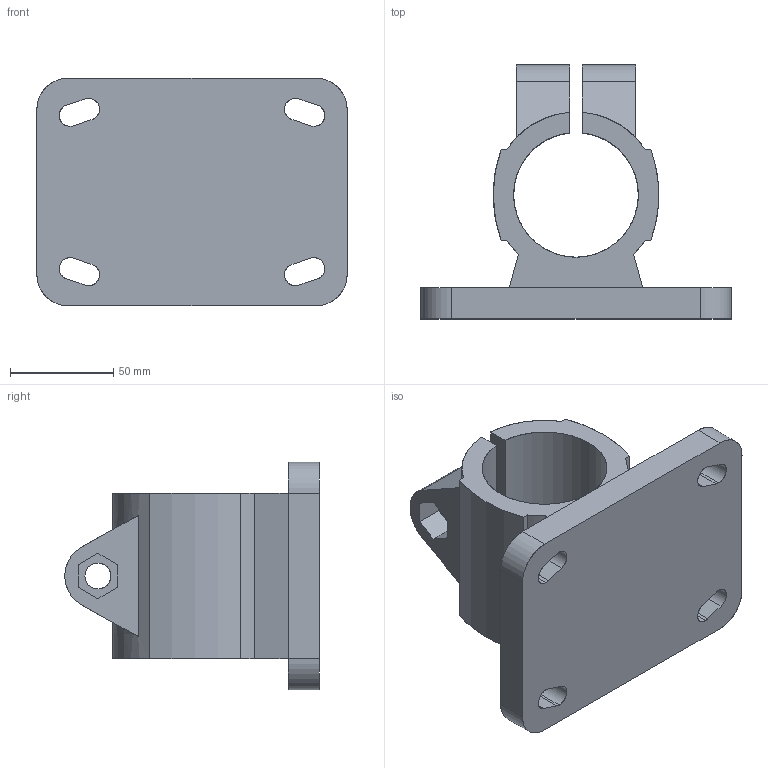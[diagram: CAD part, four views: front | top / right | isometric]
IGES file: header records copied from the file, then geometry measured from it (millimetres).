
Start section: SolidWorks IGES file using analytic representation for surfaces
Global section: file name: R:\Inventor\Kundmodeller Solidworks\Fästen\Angle base clamp 041J004321.IGS; native system: SolidWorks 2008; preprocessor: SolidWorks 2008; author: Johan; date: 091015.081924; units: millimetre
Bounding box: 150 x 123 x 110 mm (x, y, z)
Surface area: 83738.1 mm2 (no closed solid volume)
Topology: 0 solids, 0 shells, 79 faces, 1274 edges, 1274 vertices
Faces by surface type: bspline 45, revolution 34
